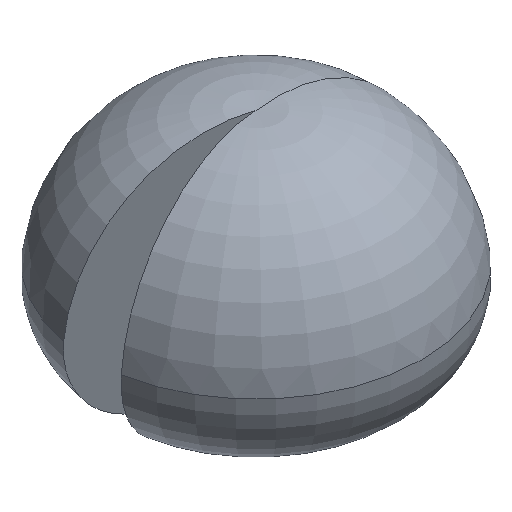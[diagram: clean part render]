
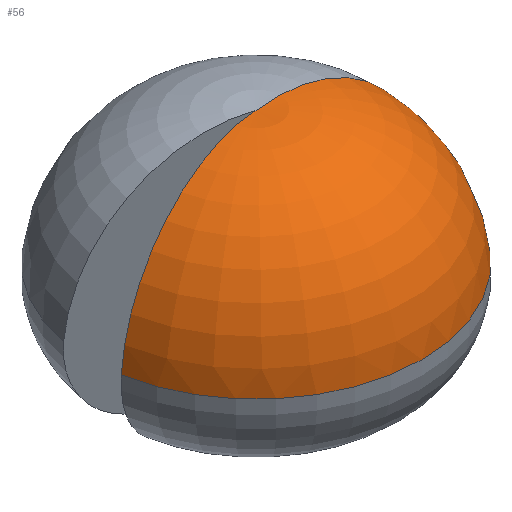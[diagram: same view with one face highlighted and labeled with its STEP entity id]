
A CAD part, isometric view. The second image highlights one B-rep face of the part: STEP entity #56.
In plain terms, the highlighted toroidal (fillet/blend) face has major radius 350 mm and minor radius 2621.11 mm.
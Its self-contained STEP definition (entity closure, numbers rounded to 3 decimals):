
#11 = AXIS2_PLACEMENT_3D ( 'NONE', #62, #90, #82 ) ;
#15 = AXIS2_PLACEMENT_3D ( 'NONE', #67, #63, #251 ) ;
#22 = AXIS2_PLACEMENT_3D ( 'NONE', #232, #233, #228 ) ;
#31 = EDGE_CURVE ( 'NONE', #110, #112, #268, .T. ) ;
#33 = AXIS2_PLACEMENT_3D ( 'NONE', #103, #81, #104 ) ;
#42 = EDGE_CURVE ( 'NONE', #118, #110, #315, .T. ) ;
#46 = EDGE_CURVE ( 'NONE', #112, #118, #327, .T. ) ;
#56 = ADVANCED_FACE ( 'NONE', ( #298 ), #319, .T. ) ;
#62 = CARTESIAN_POINT ( 'NONE',  ( 350., 0., 780. ) ) ;
#63 = DIRECTION ( 'NONE',  ( 0., 0., 1. ) ) ;
#67 = CARTESIAN_POINT ( 'NONE',  ( 0., 0., 1008.445 ) ) ;
#81 = DIRECTION ( 'NONE',  ( 0.174, -0.985, 0. ) ) ;
#82 = DIRECTION ( 'NONE',  ( 0., 0., -1. ) ) ;
#90 = DIRECTION ( 'NONE',  ( 0., -1., 0. ) ) ;
#103 = CARTESIAN_POINT ( 'NONE',  ( -344.683, -60.777, 780. ) ) ;
#104 = DIRECTION ( 'NONE',  ( 0., 0., -1. ) ) ;
#110 = VERTEX_POINT ( 'NONE', #210 ) ;
#112 = VERTEX_POINT ( 'NONE', #208 ) ;
#118 = VERTEX_POINT ( 'NONE', #205 ) ;
#147 = EDGE_LOOP ( 'NONE', ( #292, #262, #294 ) ) ;
#205 = CARTESIAN_POINT ( 'NONE',  ( 2961.138, 0., 1008.445 ) ) ;
#208 = CARTESIAN_POINT ( 'NONE',  ( -2916.151, -514.196, 1008.445 ) ) ;
#210 = CARTESIAN_POINT ( 'NONE',  ( 0., 0., 3377.639 ) ) ;
#228 = DIRECTION ( 'NONE',  ( 1., 0., 0. ) ) ;
#232 = CARTESIAN_POINT ( 'NONE',  ( 0., 0., 780. ) ) ;
#233 = DIRECTION ( 'NONE',  ( 0., 0., 1. ) ) ;
#251 = DIRECTION ( 'NONE',  ( 1., 0., 0. ) ) ;
#262 = ORIENTED_EDGE ( 'NONE', *, *, #42, .T. ) ;
#268 = CIRCLE ( 'NONE', #33, 2621.112 ) ;
#292 = ORIENTED_EDGE ( 'NONE', *, *, #46, .T. ) ;
#294 = ORIENTED_EDGE ( 'NONE', *, *, #31, .T. ) ;
#298 = FACE_OUTER_BOUND ( 'NONE', #147, .T. ) ;
#315 = CIRCLE ( 'NONE', #11, 2621.112 ) ;
#319 = TOROIDAL_SURFACE ( 'NONE', #22, 350., 2621.112 ) ;
#327 = CIRCLE ( 'NONE', #15, 2961.138 ) ;
